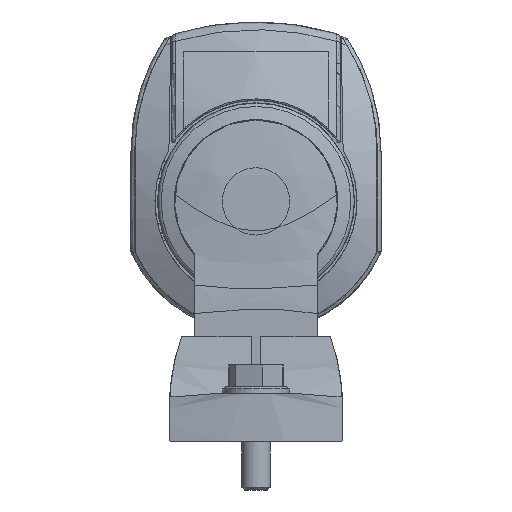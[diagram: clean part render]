
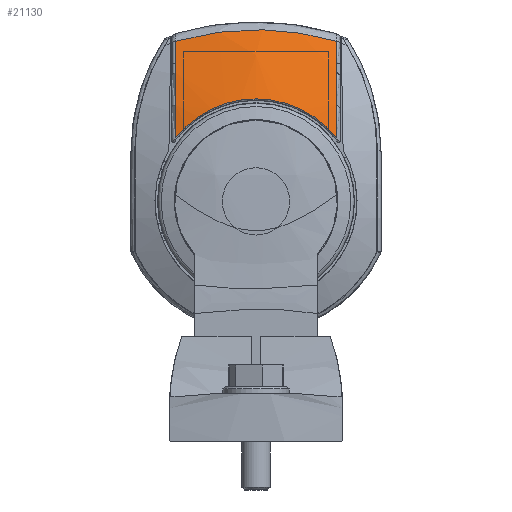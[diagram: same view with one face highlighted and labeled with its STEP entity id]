
A CAD part, front view. The second image highlights one B-rep face of the part: STEP entity #21130.
In plain terms, the highlighted spherical face has radius 75.5 mm.
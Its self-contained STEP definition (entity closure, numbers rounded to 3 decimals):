
#21067=CARTESIAN_POINT('',(0.0,-12.,-3.));
#21068=DIRECTION('',(1.0,0.0,0.0));
#21069=DIRECTION('',(0.0,1.0,0.0));
#21070=AXIS2_PLACEMENT_3D('',#21067,#21068,#21069);
#21071=SPHERICAL_SURFACE('',#21070,75.5);
#21072=CARTESIAN_POINT('',(-16.721,-77.969,29.691));
#21073=VERTEX_POINT('',#21072);
#21074=CARTESIAN_POINT('',(16.721,-77.969,29.691));
#21075=VERTEX_POINT('',#21074);
#21076=CARTESIAN_POINT('',(-16.721,-77.969,29.691));
#21077=CARTESIAN_POINT('',(-13.645,-78.302,30.594));
#21078=CARTESIAN_POINT('',(-8.877,-78.662,31.584));
#21079=CARTESIAN_POINT('',(-2.424,-78.854,32.11));
#21080=CARTESIAN_POINT('',(2.4,-78.854,32.111));
#21081=CARTESIAN_POINT('',(8.858,-78.664,31.587));
#21082=CARTESIAN_POINT('',(13.636,-78.303,30.597));
#21083=CARTESIAN_POINT('',(16.721,-77.969,29.691));
#21084=B_SPLINE_CURVE_WITH_KNOTS('',3,(#21076,#21077,#21078,#21079,#21080,#21081,#21082,#21083),.UNSPECIFIED.,.F.,.U.,(4,1,1,1,1,4),(0.385,1.311,1.774,2.237,2.701,3.627),.UNSPECIFIED.);
#21085=EDGE_CURVE('',#21073,#21075,#21084,.T.);
#21086=ORIENTED_EDGE('',*,*,#21085,.F.);
#21087=CARTESIAN_POINT('',(-16.721,-84.534,9.625));
#21088=VERTEX_POINT('',#21087);
#21089=CARTESIAN_POINT('',(-16.721,-12.,-3.));
#21090=DIRECTION('',(-1.,0.0,0.0));
#21091=DIRECTION('',(0.0,-0.954,0.299));
#21092=AXIS2_PLACEMENT_3D('',#21089,#21090,#21091);
#21093=CIRCLE('',#21092,73.625);
#21094=EDGE_CURVE('',#21088,#21073,#21093,.T.);
#21095=ORIENTED_EDGE('',*,*,#21094,.F.);
#21096=CARTESIAN_POINT('',(16.721,-84.534,9.625));
#21097=VERTEX_POINT('',#21096);
#21098=CARTESIAN_POINT('',(16.721,-84.534,9.625));
#21099=CARTESIAN_POINT('',(16.157,-84.54,10.339));
#21100=CARTESIAN_POINT('',(14.93,-84.552,11.701));
#21101=CARTESIAN_POINT('',(12.836,-84.567,13.495));
#21102=CARTESIAN_POINT('',(10.549,-84.579,14.993));
#21103=CARTESIAN_POINT('',(8.344,-84.588,16.064));
#21104=CARTESIAN_POINT('',(6.332,-84.594,16.784));
#21105=CARTESIAN_POINT('',(4.865,-84.597,17.172));
#21106=CARTESIAN_POINT('',(3.667,-84.599,17.408));
#21107=CARTESIAN_POINT('',(1.853,-84.601,17.685));
#21108=CARTESIAN_POINT('',(-0.303,-84.602,17.778));
#21109=CARTESIAN_POINT('',(-2.577,-84.6,17.582));
#21110=CARTESIAN_POINT('',(-4.98,-84.597,17.194));
#21111=CARTESIAN_POINT('',(-7.199,-84.592,16.535));
#21112=CARTESIAN_POINT('',(-9.295,-84.584,15.602));
#21113=CARTESIAN_POINT('',(-10.909,-84.577,14.756));
#21114=CARTESIAN_POINT('',(-12.827,-84.567,13.503));
#21115=CARTESIAN_POINT('',(-14.929,-84.552,11.703));
#21116=CARTESIAN_POINT('',(-16.157,-84.54,10.339));
#21117=CARTESIAN_POINT('',(-16.721,-84.534,9.625));
#21118=B_SPLINE_CURVE_WITH_KNOTS('',3,(#21098,#21099,#21100,#21101,#21102,#21103,#21104,#21105,#21106,#21107,#21108,#21109,#21110,#21111,#21112,#21113,#21114,#21115,#21116,#21117),.UNSPECIFIED.,.F.,.U.,(4,1,1,1,1,1,1,1,1,1,1,1,1,1,1,1,1,4),(0.0,0.272,0.544,0.816,1.089,1.27,1.452,1.542,1.633,1.996,2.177,2.313,2.722,2.858,2.994,3.266,3.538,3.81),.UNSPECIFIED.);
#21119=EDGE_CURVE('',#21097,#21088,#21118,.T.);
#21120=ORIENTED_EDGE('',*,*,#21119,.F.);
#21121=CARTESIAN_POINT('',(16.721,-12.,-3.));
#21122=DIRECTION('',(1.0,0.0,0.0));
#21123=DIRECTION('',(0.0,-0.954,0.299));
#21124=AXIS2_PLACEMENT_3D('',#21121,#21122,#21123);
#21125=CIRCLE('',#21124,73.625);
#21126=EDGE_CURVE('',#21075,#21097,#21125,.T.);
#21127=ORIENTED_EDGE('',*,*,#21126,.F.);
#21128=EDGE_LOOP('',(#21086,#21095,#21120,#21127));
#21129=FACE_OUTER_BOUND('',#21128,.T.);
#21130=ADVANCED_FACE('',(#21129),#21071,.T.);
